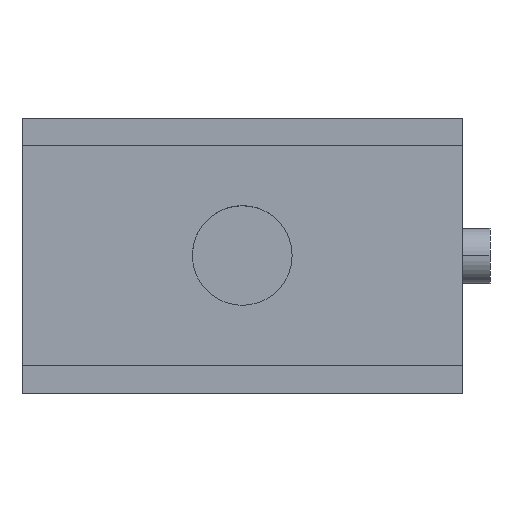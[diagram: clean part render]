
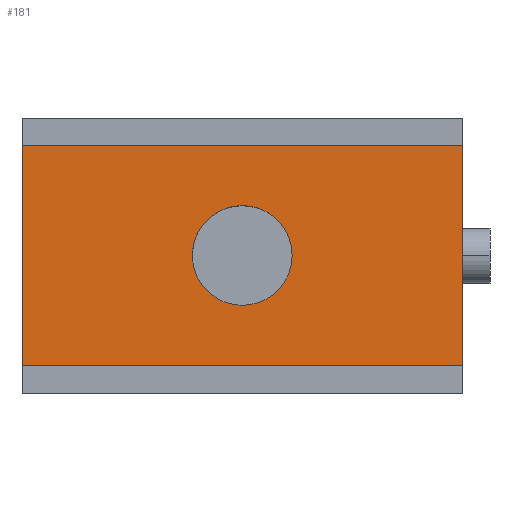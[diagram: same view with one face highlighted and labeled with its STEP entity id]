
A CAD part, top view. The second image highlights one B-rep face of the part: STEP entity #181.
In plain terms, the highlighted planar face has unit normal (0, 0, 1).
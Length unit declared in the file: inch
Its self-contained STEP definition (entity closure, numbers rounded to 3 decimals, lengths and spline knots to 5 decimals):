
#11 = VERTEX_POINT ( 'NONE', #294 ) ;
#23 = VERTEX_POINT ( 'NONE', #356 ) ;
#32 = EDGE_CURVE ( 'NONE', #23, #11, #288, .T. ) ;
#54 = VERTEX_POINT ( 'NONE', #500 ) ;
#63 = VERTEX_POINT ( 'NONE', #495 ) ;
#117 = EDGE_CURVE ( 'NONE', #11, #23, #590, .T. ) ;
#142 = ORIENTED_EDGE ( 'NONE', *, *, #117, .F. ) ;
#144 = EDGE_LOOP ( 'NONE', ( #175, #172, #166, #169 ) ) ;
#165 = ORIENTED_EDGE ( 'NONE', *, *, #32, .F. ) ;
#166 = ORIENTED_EDGE ( 'NONE', *, *, #167, .F. ) ;
#167 = EDGE_CURVE ( 'NONE', #168, #63, #547, .T. ) ;
#168 = VERTEX_POINT ( 'NONE', #543 ) ;
#169 = ORIENTED_EDGE ( 'NONE', *, *, #170, .T. ) ;
#170 = EDGE_CURVE ( 'NONE', #168, #173, #542, .T. ) ;
#171 = EDGE_LOOP ( 'NONE', ( #142, #165 ) ) ;
#172 = ORIENTED_EDGE ( 'NONE', *, *, #178, .F. ) ;
#173 = VERTEX_POINT ( 'NONE', #538 ) ;
#174 = EDGE_CURVE ( 'NONE', #173, #54, #638, .T. ) ;
#175 = ORIENTED_EDGE ( 'NONE', *, *, #174, .T. ) ;
#178 = EDGE_CURVE ( 'NONE', #63, #54, #612, .T. ) ;
#181 = ADVANCED_FACE ( 'NONE', ( #608, #607 ), #606, .F. ) ;
#229 = CARTESIAN_POINT ( 'NONE',  ( 1., 0.5, 3. ) ) ;
#285 = DIRECTION ( 'NONE',  ( 1., 0., 0. ) ) ;
#286 = DIRECTION ( 'NONE',  ( 0., 0., 1. ) ) ;
#287 = AXIS2_PLACEMENT_3D ( 'NONE', #229, #286, #285 ) ;
#288 = CIRCLE ( 'NONE', #287, 0.22655 ) ;
#294 = CARTESIAN_POINT ( 'NONE',  ( 1.22655, 0.5, 3. ) ) ;
#356 = CARTESIAN_POINT ( 'NONE',  ( 0.77345, 0.5, 3. ) ) ;
#495 = CARTESIAN_POINT ( 'NONE',  ( 2., 1., 3. ) ) ;
#500 = CARTESIAN_POINT ( 'NONE',  ( 2., 0., 3. ) ) ;
#537 = DIRECTION ( 'NONE',  ( 1., 0., 0. ) ) ;
#538 = CARTESIAN_POINT ( 'NONE',  ( 0., 0., 3. ) ) ;
#539 = DIRECTION ( 'NONE',  ( 0., -1., 0. ) ) ;
#540 = VECTOR ( 'NONE', #539, 39.37008 ) ;
#541 = CARTESIAN_POINT ( 'NONE',  ( 0., 1., 3. ) ) ;
#542 = LINE ( 'NONE', #541, #540 ) ;
#543 = CARTESIAN_POINT ( 'NONE',  ( 0., 1., 3. ) ) ;
#544 = DIRECTION ( 'NONE',  ( 1., 0., 0. ) ) ;
#545 = VECTOR ( 'NONE', #544, 39.37008 ) ;
#546 = CARTESIAN_POINT ( 'NONE',  ( -1.81003, 1., 3. ) ) ;
#547 = LINE ( 'NONE', #546, #545 ) ;
#590 = CIRCLE ( 'NONE', #591, 0.22655 ) ;
#591 = AXIS2_PLACEMENT_3D ( 'NONE', #658, #657, #537 ) ;
#602 = DIRECTION ( 'NONE',  ( -1., 0., 0. ) ) ;
#603 = DIRECTION ( 'NONE',  ( 0., 0., -1. ) ) ;
#604 = AXIS2_PLACEMENT_3D ( 'NONE', #605, #603, #602 ) ;
#605 = CARTESIAN_POINT ( 'NONE',  ( -1.81003, 1., 3. ) ) ;
#606 = PLANE ( 'NONE',  #604 ) ;
#607 = FACE_BOUND ( 'NONE', #171, .T. ) ;
#608 = FACE_OUTER_BOUND ( 'NONE', #144, .T. ) ;
#609 = DIRECTION ( 'NONE',  ( 0., -1., 0. ) ) ;
#610 = VECTOR ( 'NONE', #609, 39.37008 ) ;
#611 = CARTESIAN_POINT ( 'NONE',  ( 2., 1., 3. ) ) ;
#612 = LINE ( 'NONE', #611, #610 ) ;
#635 = DIRECTION ( 'NONE',  ( 1., 0., 0. ) ) ;
#636 = VECTOR ( 'NONE', #635, 39.37008 ) ;
#637 = CARTESIAN_POINT ( 'NONE',  ( -1.81003, 0., 3. ) ) ;
#638 = LINE ( 'NONE', #637, #636 ) ;
#657 = DIRECTION ( 'NONE',  ( 0., 0., 1. ) ) ;
#658 = CARTESIAN_POINT ( 'NONE',  ( 1., 0.5, 3. ) ) ;
